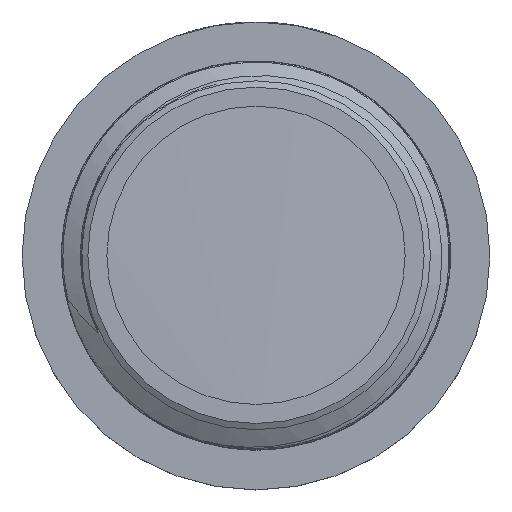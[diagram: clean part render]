
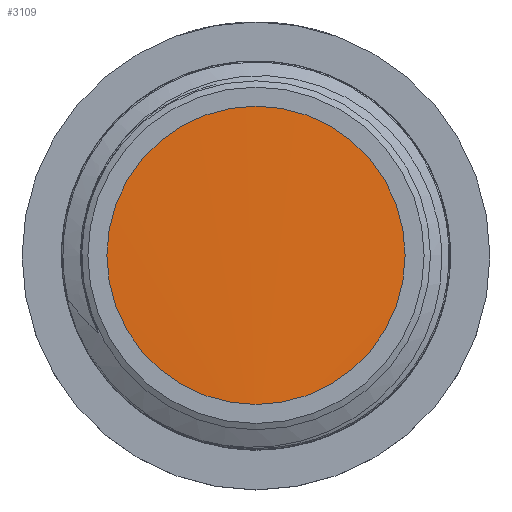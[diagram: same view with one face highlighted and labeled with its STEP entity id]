
A CAD part, top view. The second image highlights one B-rep face of the part: STEP entity #3109.
In plain terms, the highlighted cylindrical face has radius 16.625 mm (diameter 33.25 mm), a full revolution.
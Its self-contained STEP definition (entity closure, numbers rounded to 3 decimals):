
#171=B_SPLINE_CURVE_WITH_KNOTS('',3,(#6438,#6439,#6440,#6441,#6442,#6443,
#6444,#6445,#6446,#6447,#6448,#6449,#6450,#6451,#6452,#6453,#6454,#6455,
#6456,#6457,#6458,#6459,#6460,#6461,#6462,#6463,#6464,#6465,#6466,#6467,
#6468,#6469,#6470,#6471,#6472,#6473,#6474,#6475,#6476,#6477,#6478,#6479,
#6480),.UNSPECIFIED.,.F.,.F.,(4,3,3,3,3,3,3,3,3,3,3,3,3,3,4),(-25.133,
-24.845,-24.356,-23.866,-23.377,
-22.887,-22.398,-21.908,-21.419,
-20.929,-20.44,-19.95,-19.461,
-18.971,-18.85),.UNSPECIFIED.);
#238=CYLINDRICAL_SURFACE('',#3405,16.625);
#477=FACE_OUTER_BOUND('',#664,.T.);
#664=EDGE_LOOP('',(#2852,#2853,#2854));
#842=LINE('',#6435,#1011);
#843=LINE('',#6437,#1012);
#1011=VECTOR('',#4103,16.625);
#1012=VECTOR('',#4104,16.625);
#1493=VERTEX_POINT('',#6433);
#1494=VERTEX_POINT('',#6434);
#1495=VERTEX_POINT('',#6436);
#1951=EDGE_CURVE('',#1493,#1494,#842,.T.);
#1952=EDGE_CURVE('',#1493,#1495,#843,.T.);
#1953=EDGE_CURVE('',#1495,#1494,#171,.T.);
#2852=ORIENTED_EDGE('',*,*,#1951,.F.);
#2853=ORIENTED_EDGE('',*,*,#1952,.T.);
#2854=ORIENTED_EDGE('',*,*,#1953,.T.);
#3109=ADVANCED_FACE('',(#477),#238,.T.);
#3405=AXIS2_PLACEMENT_3D('',#6432,#4101,#4102);
#4101=DIRECTION('center_axis',(0.,0.,-1.));
#4102=DIRECTION('ref_axis',(0.,1.,0.));
#4103=DIRECTION('',(0.,0.,-1.));
#4104=DIRECTION('',(0.,0.,1.));
#6432=CARTESIAN_POINT('Origin',(0.,0.,60.6));
#6433=CARTESIAN_POINT('',(0.,-16.625,60.126));
#6434=CARTESIAN_POINT('',(0.,-16.625,57.834));
#6435=CARTESIAN_POINT('',(0.,-16.625,60.6));
#6436=CARTESIAN_POINT('',(0.,-16.625,60.145));
#6437=CARTESIAN_POINT('',(0.,-16.625,60.6));
#6438=CARTESIAN_POINT('Ctrl Pts',(0.,-16.624,
60.145));
#6439=CARTESIAN_POINT('Ctrl Pts',(-1.593,-16.623,60.11));
#6440=CARTESIAN_POINT('Ctrl Pts',(-3.186,-16.396,60.074));
#6441=CARTESIAN_POINT('Ctrl Pts',(-4.713,-15.944,60.039));
#6442=CARTESIAN_POINT('Ctrl Pts',(-7.314,-15.175,59.979));
#6443=CARTESIAN_POINT('Ctrl Pts',(-9.723,-13.757,59.919));
#6444=CARTESIAN_POINT('Ctrl Pts',(-11.657,-11.855,59.859));
#6445=CARTESIAN_POINT('Ctrl Pts',(-13.591,-9.954,59.799));
#6446=CARTESIAN_POINT('Ctrl Pts',(-15.05,-7.569,59.739));
#6447=CARTESIAN_POINT('Ctrl Pts',(-15.862,-4.982,59.679));
#6448=CARTESIAN_POINT('Ctrl Pts',(-16.675,-2.395,59.619));
#6449=CARTESIAN_POINT('Ctrl Pts',(-16.841,0.396,59.559));
#6450=CARTESIAN_POINT('Ctrl Pts',(-16.342,3.062,59.499));
#6451=CARTESIAN_POINT('Ctrl Pts',(-15.843,5.727,59.439));
#6452=CARTESIAN_POINT('Ctrl Pts',(-14.677,8.268,59.379));
#6453=CARTESIAN_POINT('Ctrl Pts',(-12.983,10.386,59.319));
#6454=CARTESIAN_POINT('Ctrl Pts',(-11.289,12.504,59.259));
#6455=CARTESIAN_POINT('Ctrl Pts',(-9.066,14.199,59.199));
#6456=CARTESIAN_POINT('Ctrl Pts',(-6.575,15.271,59.139));
#6457=CARTESIAN_POINT('Ctrl Pts',(-4.084,16.344,59.079));
#6458=CARTESIAN_POINT('Ctrl Pts',(-1.325,16.794,59.019));
#6459=CARTESIAN_POINT('Ctrl Pts',(1.378,16.569,58.959));
#6460=CARTESIAN_POINT('Ctrl Pts',(4.08,16.344,58.899));
#6461=CARTESIAN_POINT('Ctrl Pts',(6.727,15.445,58.839));
#6462=CARTESIAN_POINT('Ctrl Pts',(9.007,13.976,58.779));
#6463=CARTESIAN_POINT('Ctrl Pts',(11.286,12.506,58.719));
#6464=CARTESIAN_POINT('Ctrl Pts',(13.199,10.468,58.659));
#6465=CARTESIAN_POINT('Ctrl Pts',(14.52,8.099,58.599));
#6466=CARTESIAN_POINT('Ctrl Pts',(15.841,5.731,58.539));
#6467=CARTESIAN_POINT('Ctrl Pts',(16.571,3.032,58.479));
#6468=CARTESIAN_POINT('Ctrl Pts',(16.623,0.321,58.419));
#6469=CARTESIAN_POINT('Ctrl Pts',(16.676,-2.391,58.358));
#6470=CARTESIAN_POINT('Ctrl Pts',(16.051,-5.115,58.298));
#6471=CARTESIAN_POINT('Ctrl Pts',(14.822,-7.533,58.238));
#6472=CARTESIAN_POINT('Ctrl Pts',(13.593,-9.951,58.178));
#6473=CARTESIAN_POINT('Ctrl Pts',(11.76,-12.062,58.118));
#6474=CARTESIAN_POINT('Ctrl Pts',(9.539,-13.618,58.058));
#6475=CARTESIAN_POINT('Ctrl Pts',(7.318,-15.174,57.998));
#6476=CARTESIAN_POINT('Ctrl Pts',(4.708,-16.175,57.938));
#6477=CARTESIAN_POINT('Ctrl Pts',(2.016,-16.504,57.878));
#6478=CARTESIAN_POINT('Ctrl Pts',(1.347,-16.585,57.863));
#6479=CARTESIAN_POINT('Ctrl Pts',(0.674,-16.626,57.848));
#6480=CARTESIAN_POINT('Ctrl Pts',(0.,-16.625,
57.834));
